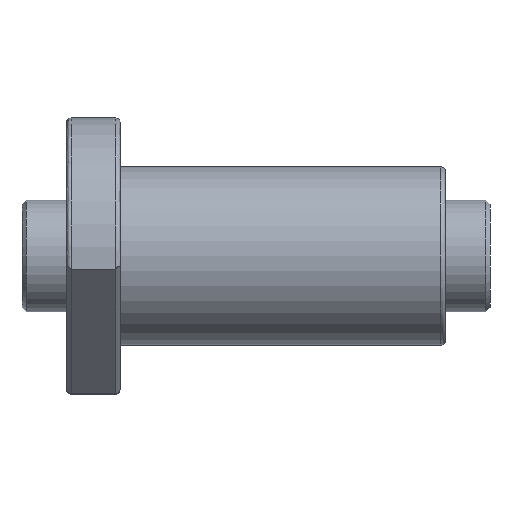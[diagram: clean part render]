
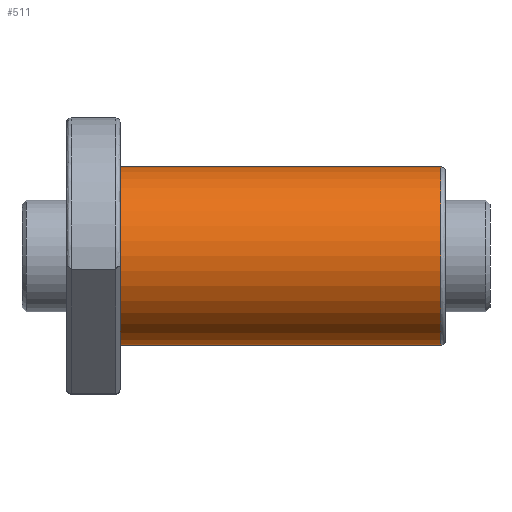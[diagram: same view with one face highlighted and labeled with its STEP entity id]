
A CAD part, front view. The second image highlights one B-rep face of the part: STEP entity #511.
In plain terms, the highlighted cylindrical face has radius 20 mm (diameter 40 mm), a partial arc.
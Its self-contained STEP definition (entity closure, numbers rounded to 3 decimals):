
#69 = ORIENTED_EDGE ( 'NONE', *, *, #2136, .F. ) ;
#192 = DIRECTION ( 'NONE',  ( 0., 0., 1. ) ) ;
#294 = DIRECTION ( 'NONE',  ( -1., 0., 0. ) ) ;
#417 = EDGE_CURVE ( 'NONE', #3303, #1109, #1134, .T. ) ;
#511 = ADVANCED_FACE ( 'NONE', ( #711 ), #3835, .T. ) ;
#623 = EDGE_CURVE ( 'NONE', #2600, #3303, #2866, .T. ) ;
#632 = CARTESIAN_POINT ( 'NONE',  ( 84., 0., 0. ) ) ;
#643 = DIRECTION ( 'NONE',  ( -1., 0., 0. ) ) ;
#685 = AXIS2_PLACEMENT_3D ( 'NONE', #3708, #2965, #1075 ) ;
#711 = FACE_OUTER_BOUND ( 'NONE', #1527, .T. ) ;
#967 = CARTESIAN_POINT ( 'NONE',  ( 84., 0., 20. ) ) ;
#1075 = DIRECTION ( 'NONE',  ( 0., 0., 1. ) ) ;
#1109 = VERTEX_POINT ( 'NONE', #2012 ) ;
#1126 = VERTEX_POINT ( 'NONE', #3473 ) ;
#1134 = CIRCLE ( 'NONE', #685, 20. ) ;
#1226 = CARTESIAN_POINT ( 'NONE',  ( 85., 0., 20. ) ) ;
#1527 = EDGE_LOOP ( 'NONE', ( #69, #3978, #2080, #4797 ) ) ;
#1857 = VECTOR ( 'NONE', #4187, 1000. ) ;
#2012 = CARTESIAN_POINT ( 'NONE',  ( 12., 0., -20. ) ) ;
#2080 = ORIENTED_EDGE ( 'NONE', *, *, #623, .T. ) ;
#2136 = EDGE_CURVE ( 'NONE', #1126, #1109, #3331, .T. ) ;
#2183 = DIRECTION ( 'NONE',  ( 0., 0., 1. ) ) ;
#2551 = EDGE_CURVE ( 'NONE', #1126, #2600, #2676, .T. ) ;
#2600 = VERTEX_POINT ( 'NONE', #967 ) ;
#2676 = CIRCLE ( 'NONE', #2977, 20. ) ;
#2866 = LINE ( 'NONE', #1226, #1857 ) ;
#2920 = CARTESIAN_POINT ( 'NONE',  ( 85., 0., -20. ) ) ;
#2965 = DIRECTION ( 'NONE',  ( 1., 0., 0. ) ) ;
#2977 = AXIS2_PLACEMENT_3D ( 'NONE', #632, #4711, #192 ) ;
#3089 = AXIS2_PLACEMENT_3D ( 'NONE', #3325, #294, #2183 ) ;
#3303 = VERTEX_POINT ( 'NONE', #3489 ) ;
#3325 = CARTESIAN_POINT ( 'NONE',  ( 85., 0., 0. ) ) ;
#3331 = LINE ( 'NONE', #2920, #4901 ) ;
#3473 = CARTESIAN_POINT ( 'NONE',  ( 84., 0., -20. ) ) ;
#3489 = CARTESIAN_POINT ( 'NONE',  ( 12., 0., 20. ) ) ;
#3708 = CARTESIAN_POINT ( 'NONE',  ( 12., 0., 0. ) ) ;
#3835 = CYLINDRICAL_SURFACE ( 'NONE', #3089, 20. ) ;
#3978 = ORIENTED_EDGE ( 'NONE', *, *, #2551, .T. ) ;
#4187 = DIRECTION ( 'NONE',  ( -1., 0., 0. ) ) ;
#4711 = DIRECTION ( 'NONE',  ( -1., 0., 0. ) ) ;
#4797 = ORIENTED_EDGE ( 'NONE', *, *, #417, .T. ) ;
#4901 = VECTOR ( 'NONE', #643, 1000. ) ;
